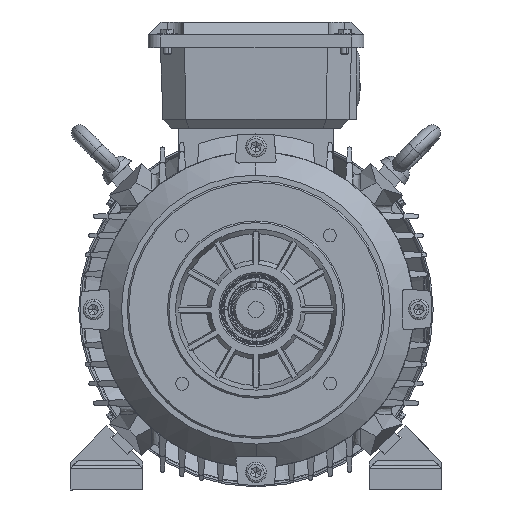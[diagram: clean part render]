
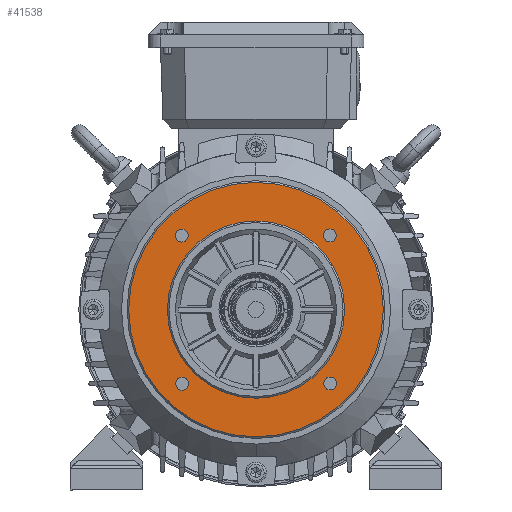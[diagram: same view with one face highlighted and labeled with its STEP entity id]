
A CAD part, left-side view. The second image highlights one B-rep face of the part: STEP entity #41538.
In plain terms, the highlighted planar face has unit normal (-1, 0, 0).
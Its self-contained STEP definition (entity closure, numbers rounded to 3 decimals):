
#468 = DIRECTION ( 'NONE',  ( 0., -0.002, -1. ) ) ;
#802 = CARTESIAN_POINT ( 'NONE',  ( -105.764, 3.985, 53.122 ) ) ;
#1165 = VERTEX_POINT ( 'NONE', #100659 ) ;
#3035 = EDGE_CURVE ( 'NONE', #86692, #70974, #43522, .T. ) ;
#5025 = VERTEX_POINT ( 'NONE', #59536 ) ;
#5127 = CARTESIAN_POINT ( 'NONE',  ( -105.764, -42.134, -51.771 ) ) ;
#5580 = EDGE_LOOP ( 'NONE', ( #144967, #50374 ) ) ;
#5980 = CARTESIAN_POINT ( 'NONE',  ( -105.764, 49.927, 40.015 ) ) ;
#7220 = CIRCLE ( 'NONE', #56512, 4. ) ;
#10037 = DIRECTION ( 'NONE',  ( 0., 1., -0.002 ) ) ;
#10587 = AXIS2_PLACEMENT_3D ( 'NONE', #14867, #103696, #59629 ) ;
#10784 = EDGE_LOOP ( 'NONE', ( #127850, #75403 ) ) ;
#11963 = DIRECTION ( 'NONE',  ( 0., 0.002, 1. ) ) ;
#12152 = VERTEX_POINT ( 'NONE', #27144 ) ;
#14867 = CARTESIAN_POINT ( 'NONE',  ( -105.764, 49.795, -47.909 ) ) ;
#15836 = DIRECTION ( 'NONE',  ( 0., -0.002, -1. ) ) ;
#16101 = DIRECTION ( 'NONE',  ( -1., 0., 0. ) ) ;
#17388 = ORIENTED_EDGE ( 'NONE', *, *, #24725, .F. ) ;
#19352 = AXIS2_PLACEMENT_3D ( 'NONE', #108084, #28115, #51595 ) ;
#23105 = EDGE_LOOP ( 'NONE', ( #25417, #17388 ) ) ;
#23249 = DIRECTION ( 'NONE',  ( 0., -1., 0.002 ) ) ;
#24725 = EDGE_CURVE ( 'NONE', #91859, #111777, #139632, .T. ) ;
#25211 = VERTEX_POINT ( 'NONE', #91204 ) ;
#25417 = ORIENTED_EDGE ( 'NONE', *, *, #79259, .F. ) ;
#26827 = CARTESIAN_POINT ( 'NONE',  ( -105.764, 3.903, -1.878 ) ) ;
#27144 = CARTESIAN_POINT ( 'NONE',  ( -105.764, -42.122, -43.771 ) ) ;
#28115 = DIRECTION ( 'NONE',  ( -1., 0., 0. ) ) ;
#29254 = CIRCLE ( 'NONE', #31539, 4. ) ;
#31539 = AXIS2_PLACEMENT_3D ( 'NONE', #140135, #94637, #74780 ) ;
#33998 = CIRCLE ( 'NONE', #78504, 55. ) ;
#35504 = AXIS2_PLACEMENT_3D ( 'NONE', #139245, #83512, #128302 ) ;
#35544 = ORIENTED_EDGE ( 'NONE', *, *, #74213, .F. ) ;
#35720 = EDGE_CURVE ( 'NONE', #5025, #1165, #92816, .T. ) ;
#36690 = EDGE_CURVE ( 'NONE', #12152, #126759, #7220, .T. ) ;
#37322 = EDGE_CURVE ( 'NONE', #130234, #129378, #77646, .T. ) ;
#37997 = FACE_BOUND ( 'NONE', #89556, .T. ) ;
#38962 = AXIS2_PLACEMENT_3D ( 'NONE', #39578, #16101, #104179 ) ;
#39243 = CARTESIAN_POINT ( 'NONE',  ( -105.764, 3.82, -56.878 ) ) ;
#39578 = CARTESIAN_POINT ( 'NONE',  ( -105.764, 3.903, -1.878 ) ) ;
#41013 = EDGE_CURVE ( 'NONE', #70974, #86692, #44851, .T. ) ;
#41538 = ADVANCED_FACE ( 'NONE', ( #49029, #93770, #138504, #37997, #82771, #127543 ), #84230, .F. ) ;
#43522 = CIRCLE ( 'NONE', #10587, 4. ) ;
#44851 = CIRCLE ( 'NONE', #91654, 4. ) ;
#47699 = DIRECTION ( 'NONE',  ( -1., 0., 0. ) ) ;
#49029 = FACE_OUTER_BOUND ( 'NONE', #93218, .T. ) ;
#50374 = ORIENTED_EDGE ( 'NONE', *, *, #125223, .F. ) ;
#51595 = DIRECTION ( 'NONE',  ( 0., -0.002, -1. ) ) ;
#54112 = DIRECTION ( 'NONE',  ( -1., 0., 0. ) ) ;
#55449 = CARTESIAN_POINT ( 'NONE',  ( -105.764, -41.99, 44.153 ) ) ;
#55604 = CARTESIAN_POINT ( 'NONE',  ( -105.764, 49.933, 44.015 ) ) ;
#56512 = AXIS2_PLACEMENT_3D ( 'NONE', #63132, #107918, #10037 ) ;
#57620 = AXIS2_PLACEMENT_3D ( 'NONE', #26827, #116393, #15836 ) ;
#58196 = CARTESIAN_POINT ( 'NONE',  ( -105.764, 49.939, 48.015 ) ) ;
#58787 = CARTESIAN_POINT ( 'NONE',  ( -105.764, 49.789, -51.909 ) ) ;
#59536 = CARTESIAN_POINT ( 'NONE',  ( -105.764, 3.784, -80.878 ) ) ;
#59629 = DIRECTION ( 'NONE',  ( 0., 0.002, 1. ) ) ;
#61268 = CIRCLE ( 'NONE', #84740, 4. ) ;
#63132 = CARTESIAN_POINT ( 'NONE',  ( -105.764, -42.128, -47.771 ) ) ;
#63141 = ORIENTED_EDGE ( 'NONE', *, *, #132494, .T. ) ;
#68733 = DIRECTION ( 'NONE',  ( -1., 0., 0. ) ) ;
#70974 = VERTEX_POINT ( 'NONE', #139958 ) ;
#74213 = EDGE_CURVE ( 'NONE', #126759, #12152, #29254, .T. ) ;
#74780 = DIRECTION ( 'NONE',  ( 0., 1., -0.002 ) ) ;
#75403 = ORIENTED_EDGE ( 'NONE', *, *, #78420, .F. ) ;
#75865 = DIRECTION ( 'NONE',  ( -1., 0., 0. ) ) ;
#77646 = CIRCLE ( 'NONE', #122195, 4. ) ;
#78420 = EDGE_CURVE ( 'NONE', #129378, #130234, #123167, .T. ) ;
#78469 = EDGE_CURVE ( 'NONE', #83570, #25211, #139705, .T. ) ;
#78504 = AXIS2_PLACEMENT_3D ( 'NONE', #89647, #87456, #134404 ) ;
#79259 = EDGE_CURVE ( 'NONE', #111777, #91859, #33998, .T. ) ;
#79291 = CARTESIAN_POINT ( 'NONE',  ( -105.764, 49.933, 44.015 ) ) ;
#79599 = DIRECTION ( 'NONE',  ( -1., 0., 0. ) ) ;
#82771 = FACE_BOUND ( 'NONE', #91165, .T. ) ;
#83512 = DIRECTION ( 'NONE',  ( 1., 0., 0. ) ) ;
#83570 = VERTEX_POINT ( 'NONE', #99508 ) ;
#84230 = PLANE ( 'NONE',  #35504 ) ;
#84740 = AXIS2_PLACEMENT_3D ( 'NONE', #55449, #79599, #135385 ) ;
#86692 = VERTEX_POINT ( 'NONE', #58787 ) ;
#87456 = DIRECTION ( 'NONE',  ( -1., 0., 0. ) ) ;
#88262 = ORIENTED_EDGE ( 'NONE', *, *, #3035, .F. ) ;
#89556 = EDGE_LOOP ( 'NONE', ( #141109, #35544 ) ) ;
#89647 = CARTESIAN_POINT ( 'NONE',  ( -105.764, 3.903, -1.878 ) ) ;
#91165 = EDGE_LOOP ( 'NONE', ( #107420, #88262 ) ) ;
#91204 = CARTESIAN_POINT ( 'NONE',  ( -105.764, -41.996, 40.153 ) ) ;
#91654 = AXIS2_PLACEMENT_3D ( 'NONE', #144821, #75865, #11963 ) ;
#91859 = VERTEX_POINT ( 'NONE', #39243 ) ;
#92816 = CIRCLE ( 'NONE', #57620, 79. ) ;
#93218 = EDGE_LOOP ( 'NONE', ( #118133, #63141 ) ) ;
#93770 = FACE_BOUND ( 'NONE', #10784, .T. ) ;
#94637 = DIRECTION ( 'NONE',  ( -1., 0., 0. ) ) ;
#99508 = CARTESIAN_POINT ( 'NONE',  ( -105.764, -41.984, 48.153 ) ) ;
#100659 = CARTESIAN_POINT ( 'NONE',  ( -105.764, 4.021, 77.122 ) ) ;
#101056 = CARTESIAN_POINT ( 'NONE',  ( -105.764, -41.99, 44.153 ) ) ;
#103696 = DIRECTION ( 'NONE',  ( -1., 0., 0. ) ) ;
#104179 = DIRECTION ( 'NONE',  ( 0., 0.002, 1. ) ) ;
#107420 = ORIENTED_EDGE ( 'NONE', *, *, #41013, .F. ) ;
#107918 = DIRECTION ( 'NONE',  ( -1., 0., 0. ) ) ;
#108084 = CARTESIAN_POINT ( 'NONE',  ( -105.764, 3.903, -1.878 ) ) ;
#109236 = AXIS2_PLACEMENT_3D ( 'NONE', #101056, #54112, #468 ) ;
#111777 = VERTEX_POINT ( 'NONE', #802 ) ;
#116393 = DIRECTION ( 'NONE',  ( -1., 0., 0. ) ) ;
#117764 = CIRCLE ( 'NONE', #19352, 79. ) ;
#118133 = ORIENTED_EDGE ( 'NONE', *, *, #35720, .T. ) ;
#122195 = AXIS2_PLACEMENT_3D ( 'NONE', #79291, #47699, #124075 ) ;
#123167 = CIRCLE ( 'NONE', #130296, 4. ) ;
#124075 = DIRECTION ( 'NONE',  ( 0., -1., 0.002 ) ) ;
#125223 = EDGE_CURVE ( 'NONE', #25211, #83570, #61268, .T. ) ;
#126759 = VERTEX_POINT ( 'NONE', #5127 ) ;
#127543 = FACE_BOUND ( 'NONE', #23105, .T. ) ;
#127850 = ORIENTED_EDGE ( 'NONE', *, *, #37322, .F. ) ;
#128302 = DIRECTION ( 'NONE',  ( 0., 1., -0.002 ) ) ;
#129378 = VERTEX_POINT ( 'NONE', #5980 ) ;
#130234 = VERTEX_POINT ( 'NONE', #58196 ) ;
#130296 = AXIS2_PLACEMENT_3D ( 'NONE', #55604, #68733, #23249 ) ;
#132494 = EDGE_CURVE ( 'NONE', #1165, #5025, #117764, .T. ) ;
#134404 = DIRECTION ( 'NONE',  ( 0., 0.002, 1. ) ) ;
#135385 = DIRECTION ( 'NONE',  ( 0., -0.002, -1. ) ) ;
#138504 = FACE_BOUND ( 'NONE', #5580, .T. ) ;
#139245 = CARTESIAN_POINT ( 'NONE',  ( -105.764, 58.902, -1.96 ) ) ;
#139632 = CIRCLE ( 'NONE', #38962, 55. ) ;
#139705 = CIRCLE ( 'NONE', #109236, 4. ) ;
#139958 = CARTESIAN_POINT ( 'NONE',  ( -105.764, 49.801, -43.909 ) ) ;
#140135 = CARTESIAN_POINT ( 'NONE',  ( -105.764, -42.128, -47.771 ) ) ;
#141109 = ORIENTED_EDGE ( 'NONE', *, *, #36690, .F. ) ;
#144821 = CARTESIAN_POINT ( 'NONE',  ( -105.764, 49.795, -47.909 ) ) ;
#144967 = ORIENTED_EDGE ( 'NONE', *, *, #78469, .F. ) ;
